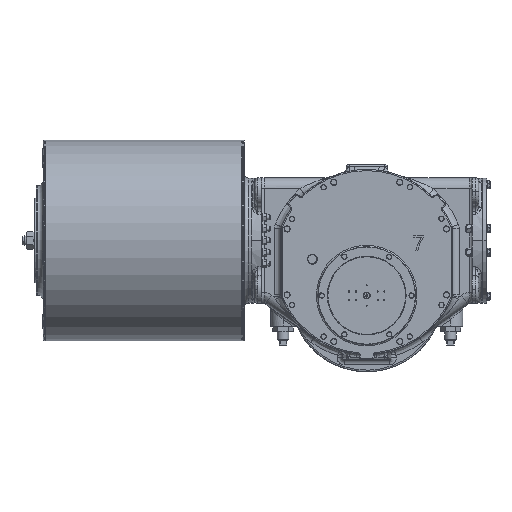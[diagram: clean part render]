
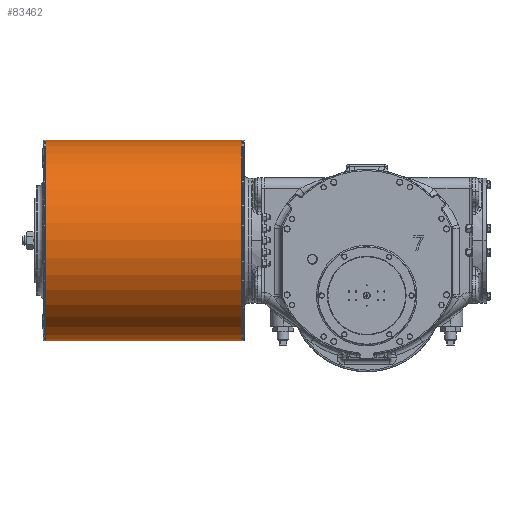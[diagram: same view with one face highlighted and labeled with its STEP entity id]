
A CAD part, top view. The second image highlights one B-rep face of the part: STEP entity #83462.
In plain terms, the highlighted cylindrical face has radius 369 mm (diameter 738 mm), a partial arc.
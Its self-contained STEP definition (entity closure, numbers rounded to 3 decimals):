
#1248 = EDGE_CURVE ( 'NONE', #22279, #116242, #73851, .T. ) ;
#10577 = AXIS2_PLACEMENT_3D ( 'NONE', #88173, #57667, #86291 ) ;
#14344 = EDGE_CURVE ( 'NONE', #23992, #22279, #107099, .T. ) ;
#16356 = CARTESIAN_POINT ( 'NONE',  ( -461., 203., 168. ) ) ;
#20738 = CIRCLE ( 'NONE', #10577, 369. ) ;
#22279 = VERTEX_POINT ( 'NONE', #100014 ) ;
#23992 = VERTEX_POINT ( 'NONE', #38302 ) ;
#29574 = DIRECTION ( 'NONE',  ( 1., 0., 0. ) ) ;
#32860 = EDGE_LOOP ( 'NONE', ( #66695, #113560, #89141, #93262 ) ) ;
#38302 = CARTESIAN_POINT ( 'NONE',  ( -1181., 572., 168. ) ) ;
#40044 = CARTESIAN_POINT ( 'NONE',  ( -461., -166., 168. ) ) ;
#42965 = CARTESIAN_POINT ( 'NONE',  ( -2224.69, -166., 168. ) ) ;
#45497 = AXIS2_PLACEMENT_3D ( 'NONE', #16356, #74139, #55059 ) ;
#46714 = CARTESIAN_POINT ( 'NONE',  ( -2224.69, 203., 168. ) ) ;
#51804 = VERTEX_POINT ( 'NONE', #103657 ) ;
#52494 = LINE ( 'NONE', #42965, #114395 ) ;
#55059 = DIRECTION ( 'NONE',  ( 0., 1., 0. ) ) ;
#57667 = DIRECTION ( 'NONE',  ( 1., 0., 0. ) ) ;
#64471 = FACE_OUTER_BOUND ( 'NONE', #32860, .T. ) ;
#66695 = ORIENTED_EDGE ( 'NONE', *, *, #116634, .T. ) ;
#73851 = CIRCLE ( 'NONE', #45497, 369. ) ;
#74027 = DIRECTION ( 'NONE',  ( 0., 1., 0. ) ) ;
#74139 = DIRECTION ( 'NONE',  ( 1., 0., 0. ) ) ;
#83404 = EDGE_CURVE ( 'NONE', #51804, #116242, #52494, .T. ) ;
#83462 = ADVANCED_FACE ( 'NONE', ( #64471 ), #113482, .T. ) ;
#83939 = AXIS2_PLACEMENT_3D ( 'NONE', #46714, #93739, #74027 ) ;
#86291 = DIRECTION ( 'NONE',  ( 0., -1., 0. ) ) ;
#88173 = CARTESIAN_POINT ( 'NONE',  ( -1181., 203., 168. ) ) ;
#89141 = ORIENTED_EDGE ( 'NONE', *, *, #1248, .F. ) ;
#93262 = ORIENTED_EDGE ( 'NONE', *, *, #14344, .F. ) ;
#93739 = DIRECTION ( 'NONE',  ( 1., 0., 0. ) ) ;
#100014 = CARTESIAN_POINT ( 'NONE',  ( -461., 572., 168. ) ) ;
#103657 = CARTESIAN_POINT ( 'NONE',  ( -1181., -166., 168. ) ) ;
#106316 = VECTOR ( 'NONE', #29574, 1000. ) ;
#107099 = LINE ( 'NONE', #116663, #106316 ) ;
#109069 = DIRECTION ( 'NONE',  ( 1., 0., 0. ) ) ;
#113482 = CYLINDRICAL_SURFACE ( 'NONE', #83939, 369. ) ;
#113560 = ORIENTED_EDGE ( 'NONE', *, *, #83404, .T. ) ;
#114395 = VECTOR ( 'NONE', #109069, 1000. ) ;
#116242 = VERTEX_POINT ( 'NONE', #40044 ) ;
#116634 = EDGE_CURVE ( 'NONE', #23992, #51804, #20738, .T. ) ;
#116663 = CARTESIAN_POINT ( 'NONE',  ( -2224.69, 572., 168. ) ) ;
